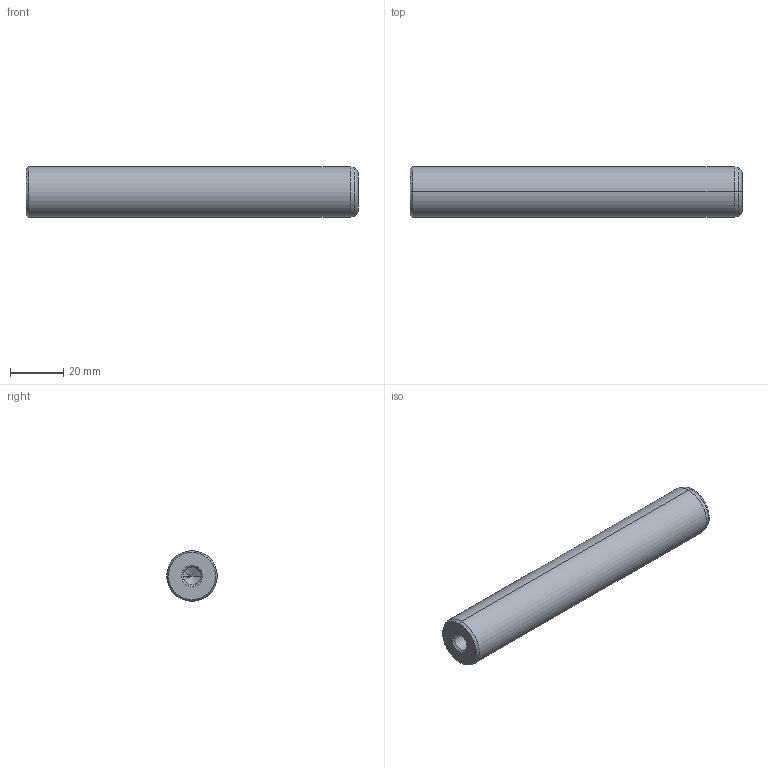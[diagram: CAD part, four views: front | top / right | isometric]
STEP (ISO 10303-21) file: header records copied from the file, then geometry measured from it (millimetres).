
FILE_DESCRIPTION(('CATIA V5 STEP Exchange'),'2;1');
FILE_NAME('C:\Users\Utente\Desktop\IO LAVORO\3D X SITO CF\X SITO\720\720-19x125.stp','2021-01-01T13:08:30+00:00',('none'),('none'),'CATIA Version 5 Release 20 GA (IN-10)','CATIA V5 STEP AP203','none');
FILE_SCHEMA(('CONFIG_CONTROL_DESIGN'));
Length unit declared in the file: millimetre
Products named in the file (1): 720-19x125
Bounding box: 125 x 19 x 19 mm (x, y, z)
Volume: 33610.1 mm3; surface area: 8926.5 mm2
Topology: 1 solids, 1 shells, 22 faces, 62 edges, 40 vertices
Faces by surface type: cone 12, cylinder 6, plane 2, torus 2
Entity records: 806 total; most frequent: CARTESIAN_POINT 229, ORIENTED_EDGE 116, DIRECTION 93, EDGE_CURVE 58, AXIS2_PLACEMENT_3D 54, VERTEX_POINT 40, CIRCLE 31, EDGE_LOOP 24
